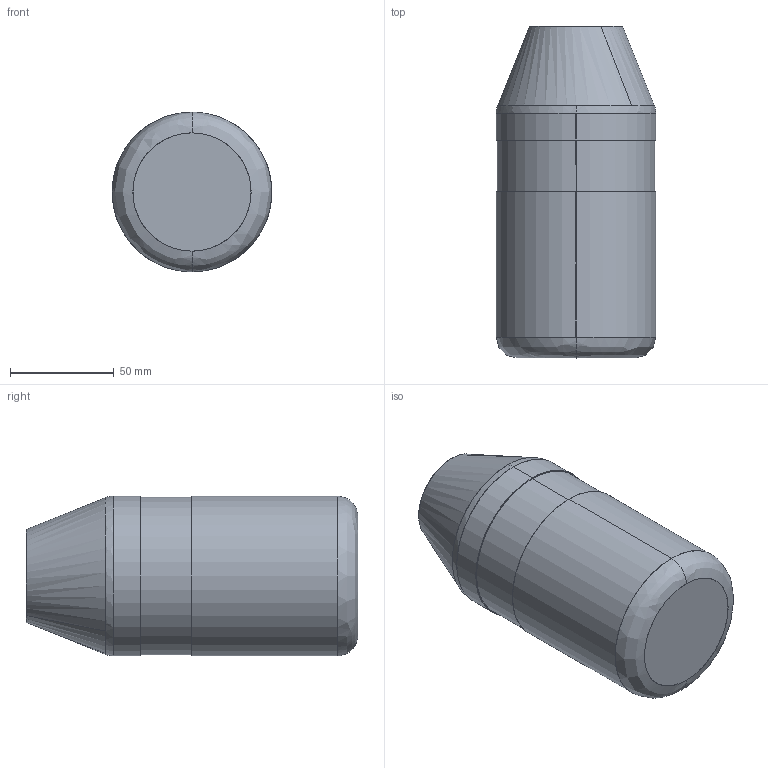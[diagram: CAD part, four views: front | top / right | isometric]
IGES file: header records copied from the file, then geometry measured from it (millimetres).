
Start section: SolidWorks IGES file using analytic representation for surfaces
Global section: file name: C:\Users\danielet\Desktop\3D CARLOS\MOVE IT-S8173-3D\MOVE IT-S8173-3D.IGS; native system: SolidWorks 2018; preprocessor: SolidWorks 2018; author: danielet; date: 220107.142016; units: millimetre
Bounding box: 77 x 160 x 77 mm (x, y, z)
Surface area: 42565.7 mm2 (no closed solid volume)
Topology: 0 solids, 0 shells, 16 faces, 436 edges, 436 vertices
Faces by surface type: bspline 10, revolution 6
